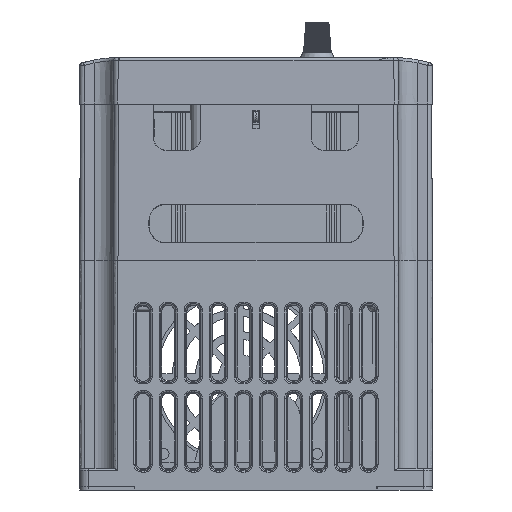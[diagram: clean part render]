
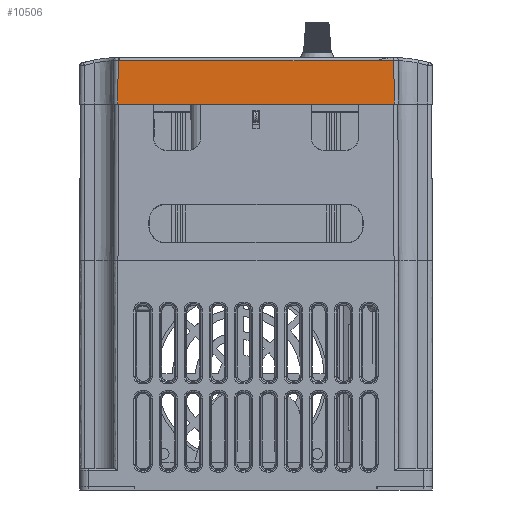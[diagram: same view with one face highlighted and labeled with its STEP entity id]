
A CAD part, left-side view. The second image highlights one B-rep face of the part: STEP entity #10506.
In plain terms, the highlighted planar face has unit normal (-1, 0, 0.005).
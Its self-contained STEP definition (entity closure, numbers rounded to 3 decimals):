
#10506=ADVANCED_FACE('',(#64405),#64407,.T.);
#64405=FACE_BOUND('',#64406,.T.);
#64406=EDGE_LOOP('',(#86062,#86063,#86064,#86065,#86066,#86067));
#64407=PLANE('',#64408);
#64408=AXIS2_PLACEMENT_3D('',#64409,#64410,#64411);
#64409=CARTESIAN_POINT('',(160.698,-97.208,-257.936));
#64410=DIRECTION('',(-1.,0.,0.005));
#64411=DIRECTION('',(-0.005,0.,-1.));
#86062=ORIENTED_EDGE('',*,*,#96771,.T.);
#86063=ORIENTED_EDGE('',*,*,#96772,.T.);
#86064=ORIENTED_EDGE('',*,*,#96773,.F.);
#86065=ORIENTED_EDGE('',*,*,#96774,.F.);
#86066=ORIENTED_EDGE('',*,*,#96770,.T.);
#86067=ORIENTED_EDGE('',*,*,#96775,.T.);
#96770=EDGE_CURVE('',#114195,#114197,#114199,.T.);
#96771=EDGE_CURVE('',#114200,#114201,#114202,.T.);
#96772=EDGE_CURVE('',#114201,#114203,#114204,.T.);
#96773=EDGE_CURVE('',#114205,#114203,#114206,.T.);
#96774=EDGE_CURVE('',#114195,#114205,#114207,.T.);
#96775=EDGE_CURVE('',#114197,#114200,#114208,.T.);
#114195=VERTEX_POINT('',#186294);
#114197=VERTEX_POINT('',#186310);
#114199=LINE('',#186315,#186316);
#114200=VERTEX_POINT('',#186318);
#114201=VERTEX_POINT('',#186319);
#114202=LINE('',#186320,#186321);
#114203=VERTEX_POINT('',#186323);
#114204=B_SPLINE_CURVE_WITH_KNOTS('',3,
(#186324,#186325,#186326,#186327,#186328,#186329,#186330,#186331),
.UNSPECIFIED.,.F.,.F.,
(4,2,2,4),
(0.,0.5,0.998,1.),
.UNSPECIFIED.);
#114205=VERTEX_POINT('',#186332);
#114206=LINE('',#186333,#186334);
#114207=B_SPLINE_CURVE_WITH_KNOTS('',3,
(#186336,#186337,#186338,#186339,#186340,#186341,#186342,#186343),
.UNSPECIFIED.,.F.,.F.,
(4,2,2,4),
(0.,0.5,0.987,1.),
.UNSPECIFIED.);
#114208=LINE('',#186344,#186345);
#186294=CARTESIAN_POINT('',(161.038,44.887,-193.008));
#186310=CARTESIAN_POINT('',(160.964,44.961,-207.111));
#186315=CARTESIAN_POINT('',(161.038,44.887,-193.008));
#186316=VECTOR('',#186317,1.);
#186317=DIRECTION('',(-0.005,0.005,-1.));
#186318=CARTESIAN_POINT('',(160.964,-44.961,-207.111));
#186319=CARTESIAN_POINT('',(161.038,-44.887,-193.01));
#186320=CARTESIAN_POINT('',(160.964,-44.961,-207.111));
#186321=VECTOR('',#186322,1.);
#186322=DIRECTION('',(0.005,0.005,1.));
#186323=CARTESIAN_POINT('',(161.038,-39.145,-193.008));
#186324=CARTESIAN_POINT('',(161.038,-44.887,-193.01));
#186325=CARTESIAN_POINT('',(161.038,-43.93,-193.006));
#186326=CARTESIAN_POINT('',(161.038,-42.973,-193.002));
#186327=CARTESIAN_POINT('',(161.038,-41.064,-193.001));
#186328=CARTESIAN_POINT('',(161.038,-40.111,-193.008));
#186329=CARTESIAN_POINT('',(161.038,-39.154,-193.008));
#186330=CARTESIAN_POINT('',(161.038,-39.15,-193.008));
#186331=CARTESIAN_POINT('',(161.038,-39.145,-193.008));
#186332=CARTESIAN_POINT('',(161.038,44.445,-193.008));
#186333=CARTESIAN_POINT('',(161.038,44.445,-193.008));
#186334=VECTOR('',#186335,1.);
#186335=DIRECTION('',(0.,-1.,0.));
#186336=CARTESIAN_POINT('',(161.038,44.887,-193.008));
#186337=CARTESIAN_POINT('',(161.038,44.814,-193.008));
#186338=CARTESIAN_POINT('',(161.038,44.74,-193.008));
#186339=CARTESIAN_POINT('',(161.038,44.594,-193.007));
#186340=CARTESIAN_POINT('',(161.038,44.522,-193.008));
#186341=CARTESIAN_POINT('',(161.038,44.449,-193.008));
#186342=CARTESIAN_POINT('',(161.038,44.447,-193.008));
#186343=CARTESIAN_POINT('',(161.038,44.445,-193.008));
#186344=CARTESIAN_POINT('',(160.964,44.961,-207.111));
#186345=VECTOR('',#186346,1.);
#186346=DIRECTION('',(0.,-1.,0.));
